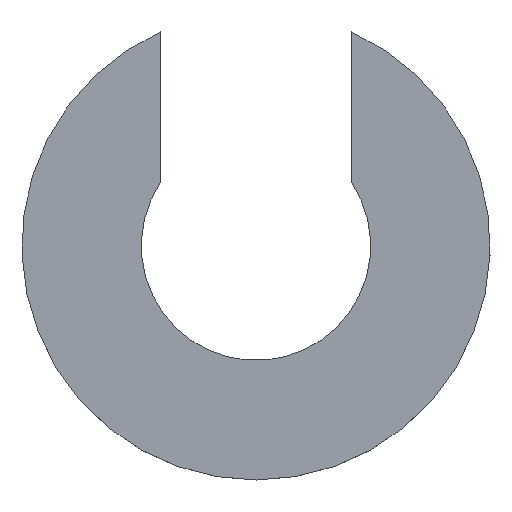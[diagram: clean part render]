
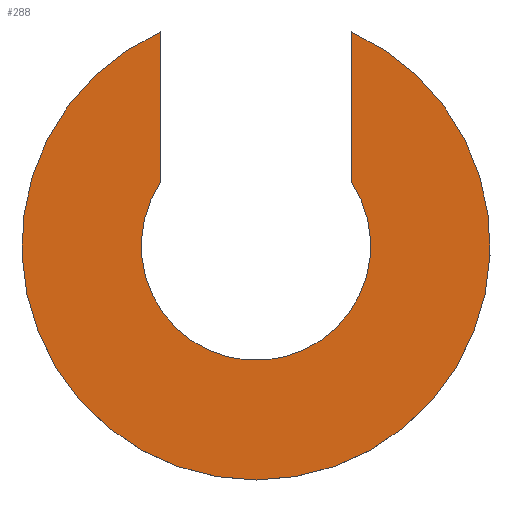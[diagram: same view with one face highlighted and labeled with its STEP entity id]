
A CAD part, top view. The second image highlights one B-rep face of the part: STEP entity #288.
In plain terms, the highlighted planar face has unit normal (0, 0, 1).
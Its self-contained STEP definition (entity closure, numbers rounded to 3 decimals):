
#33 = CYLINDRICAL_SURFACE('',#34,7.15);
#34 = AXIS2_PLACEMENT_3D('',#35,#36,#37);
#35 = CARTESIAN_POINT('',(0.,0.,0.));
#36 = DIRECTION('',(-0.,-0.,-1.));
#37 = DIRECTION('',(1.,0.,0.));
#58 = VERTEX_POINT('',#59);
#59 = CARTESIAN_POINT('',(-2.92,6.527,0.9));
#72 = PLANE('',#73);
#73 = AXIS2_PLACEMENT_3D('',#74,#75,#76);
#74 = CARTESIAN_POINT('',(-2.92,12.,0.));
#75 = DIRECTION('',(1.,0.,-0.));
#76 = DIRECTION('',(0.,-1.,0.));
#83 = EDGE_CURVE('',#84,#58,#86,.T.);
#84 = VERTEX_POINT('',#85);
#85 = CARTESIAN_POINT('',(2.92,6.527,0.9));
#86 = SURFACE_CURVE('',#87,(#92,#99),.PCURVE_S1.);
#87 = CIRCLE('',#88,7.15);
#88 = AXIS2_PLACEMENT_3D('',#89,#90,#91);
#89 = CARTESIAN_POINT('',(0.,0.,0.9));
#90 = DIRECTION('',(0.,0.,-1.));
#91 = DIRECTION('',(0.408,0.913,0.));
#92 = PCURVE('',#33,#93);
#93 = DEFINITIONAL_REPRESENTATION('',(#94),#98);
#94 = LINE('',#95,#96);
#95 = CARTESIAN_POINT('',(-7.433,-0.9));
#96 = VECTOR('',#97,1.);
#97 = DIRECTION('',(1.,-0.));
#98 = ( GEOMETRIC_REPRESENTATION_CONTEXT(2) 
PARAMETRIC_REPRESENTATION_CONTEXT() REPRESENTATION_CONTEXT('2D SPACE',''
  ) );
#99 = PCURVE('',#100,#105);
#100 = PLANE('',#101);
#101 = AXIS2_PLACEMENT_3D('',#102,#103,#104);
#102 = CARTESIAN_POINT('',(0.,0.,0.9));
#103 = DIRECTION('',(0.,0.,1.));
#104 = DIRECTION('',(1.,0.,-0.));
#105 = DEFINITIONAL_REPRESENTATION('',(#106),#114);
#106 = ( BOUNDED_CURVE() B_SPLINE_CURVE(2,(#107,#108,#109,#110,#111,#112
,#113),.UNSPECIFIED.,.T.,.F.) B_SPLINE_CURVE_WITH_KNOTS((1,2,2,2,2,1),(
    -2.094,0.,2.094,4.189,6.283,
8.378),.UNSPECIFIED.) CURVE() GEOMETRIC_REPRESENTATION_ITEM() 
RATIONAL_B_SPLINE_CURVE((1.,0.5,1.,0.5,1.,0.5,1.)) REPRESENTATION_ITEM(
  '') );
#107 = CARTESIAN_POINT('',(2.92,6.527));
#108 = CARTESIAN_POINT('',(14.224,1.469));
#109 = CARTESIAN_POINT('',(4.192,-5.792));
#110 = CARTESIAN_POINT('',(-5.84,-13.053));
#111 = CARTESIAN_POINT('',(-7.112,-0.734));
#112 = CARTESIAN_POINT('',(-8.384,11.584));
#113 = CARTESIAN_POINT('',(2.92,6.527));
#114 = ( GEOMETRIC_REPRESENTATION_CONTEXT(2) 
PARAMETRIC_REPRESENTATION_CONTEXT() REPRESENTATION_CONTEXT('2D SPACE',''
  ) );
#129 = PLANE('',#130);
#130 = AXIS2_PLACEMENT_3D('',#131,#132,#133);
#131 = CARTESIAN_POINT('',(2.92,0.,0.));
#132 = DIRECTION('',(-1.,0.,0.));
#133 = DIRECTION('',(0.,1.,0.));
#167 = VERTEX_POINT('',#168);
#168 = CARTESIAN_POINT('',(2.92,1.93,0.9));
#181 = CYLINDRICAL_SURFACE('',#182,3.5);
#182 = AXIS2_PLACEMENT_3D('',#183,#184,#185);
#183 = CARTESIAN_POINT('',(0.,0.,0.));
#184 = DIRECTION('',(-0.,-0.,-1.));
#185 = DIRECTION('',(1.,0.,0.));
#192 = EDGE_CURVE('',#167,#84,#193,.T.);
#193 = SURFACE_CURVE('',#194,(#198,#205),.PCURVE_S1.);
#194 = LINE('',#195,#196);
#195 = CARTESIAN_POINT('',(2.92,0.,0.9));
#196 = VECTOR('',#197,1.);
#197 = DIRECTION('',(0.,1.,0.));
#198 = PCURVE('',#129,#199);
#199 = DEFINITIONAL_REPRESENTATION('',(#200),#204);
#200 = LINE('',#201,#202);
#201 = CARTESIAN_POINT('',(0.,-0.9));
#202 = VECTOR('',#203,1.);
#203 = DIRECTION('',(1.,0.));
#204 = ( GEOMETRIC_REPRESENTATION_CONTEXT(2) 
PARAMETRIC_REPRESENTATION_CONTEXT() REPRESENTATION_CONTEXT('2D SPACE',''
  ) );
#205 = PCURVE('',#100,#206);
#206 = DEFINITIONAL_REPRESENTATION('',(#207),#211);
#207 = LINE('',#208,#209);
#208 = CARTESIAN_POINT('',(2.92,0.));
#209 = VECTOR('',#210,1.);
#210 = DIRECTION('',(0.,1.));
#211 = ( GEOMETRIC_REPRESENTATION_CONTEXT(2) 
PARAMETRIC_REPRESENTATION_CONTEXT() REPRESENTATION_CONTEXT('2D SPACE',''
  ) );
#217 = EDGE_CURVE('',#167,#218,#220,.T.);
#218 = VERTEX_POINT('',#219);
#219 = CARTESIAN_POINT('',(-2.92,1.93,0.9));
#220 = SURFACE_CURVE('',#221,(#226,#233),.PCURVE_S1.);
#221 = CIRCLE('',#222,3.5);
#222 = AXIS2_PLACEMENT_3D('',#223,#224,#225);
#223 = CARTESIAN_POINT('',(0.,0.,0.9));
#224 = DIRECTION('',(0.,0.,-1.));
#225 = DIRECTION('',(0.834,0.551,0.));
#226 = PCURVE('',#181,#227);
#227 = DEFINITIONAL_REPRESENTATION('',(#228),#232);
#228 = LINE('',#229,#230);
#229 = CARTESIAN_POINT('',(-6.867,-0.9));
#230 = VECTOR('',#231,1.);
#231 = DIRECTION('',(1.,-0.));
#232 = ( GEOMETRIC_REPRESENTATION_CONTEXT(2) 
PARAMETRIC_REPRESENTATION_CONTEXT() REPRESENTATION_CONTEXT('2D SPACE',''
  ) );
#233 = PCURVE('',#100,#234);
#234 = DEFINITIONAL_REPRESENTATION('',(#235),#243);
#235 = ( BOUNDED_CURVE() B_SPLINE_CURVE(2,(#236,#237,#238,#239,#240,#241
,#242),.UNSPECIFIED.,.T.,.F.) B_SPLINE_CURVE_WITH_KNOTS((1,2,2,2,2,1),(
    -2.094,0.,2.094,4.189,6.283,
8.378),.UNSPECIFIED.) CURVE() GEOMETRIC_REPRESENTATION_ITEM() 
RATIONAL_B_SPLINE_CURVE((1.,0.5,1.,0.5,1.,0.5,1.)) REPRESENTATION_ITEM(
  '') );
#236 = CARTESIAN_POINT('',(2.92,1.93));
#237 = CARTESIAN_POINT('',(6.262,-3.128));
#238 = CARTESIAN_POINT('',(0.211,-3.494));
#239 = CARTESIAN_POINT('',(-5.84,-3.859));
#240 = CARTESIAN_POINT('',(-3.131,1.564));
#241 = CARTESIAN_POINT('',(-0.422,6.987));
#242 = CARTESIAN_POINT('',(2.92,1.93));
#243 = ( GEOMETRIC_REPRESENTATION_CONTEXT(2) 
PARAMETRIC_REPRESENTATION_CONTEXT() REPRESENTATION_CONTEXT('2D SPACE',''
  ) );
#288 = ADVANCED_FACE('',(#289),#100,.T.);
#289 = FACE_BOUND('',#290,.T.);
#290 = EDGE_LOOP('',(#291,#312,#313,#314));
#291 = ORIENTED_EDGE('',*,*,#292,.F.);
#292 = EDGE_CURVE('',#58,#218,#293,.T.);
#293 = SURFACE_CURVE('',#294,(#298,#305),.PCURVE_S1.);
#294 = LINE('',#295,#296);
#295 = CARTESIAN_POINT('',(-2.92,12.,0.9));
#296 = VECTOR('',#297,1.);
#297 = DIRECTION('',(0.,-1.,0.));
#298 = PCURVE('',#100,#299);
#299 = DEFINITIONAL_REPRESENTATION('',(#300),#304);
#300 = LINE('',#301,#302);
#301 = CARTESIAN_POINT('',(-2.92,12.));
#302 = VECTOR('',#303,1.);
#303 = DIRECTION('',(0.,-1.));
#304 = ( GEOMETRIC_REPRESENTATION_CONTEXT(2) 
PARAMETRIC_REPRESENTATION_CONTEXT() REPRESENTATION_CONTEXT('2D SPACE',''
  ) );
#305 = PCURVE('',#72,#306);
#306 = DEFINITIONAL_REPRESENTATION('',(#307),#311);
#307 = LINE('',#308,#309);
#308 = CARTESIAN_POINT('',(0.,-0.9));
#309 = VECTOR('',#310,1.);
#310 = DIRECTION('',(1.,0.));
#311 = ( GEOMETRIC_REPRESENTATION_CONTEXT(2) 
PARAMETRIC_REPRESENTATION_CONTEXT() REPRESENTATION_CONTEXT('2D SPACE',''
  ) );
#312 = ORIENTED_EDGE('',*,*,#83,.F.);
#313 = ORIENTED_EDGE('',*,*,#192,.F.);
#314 = ORIENTED_EDGE('',*,*,#217,.T.);
